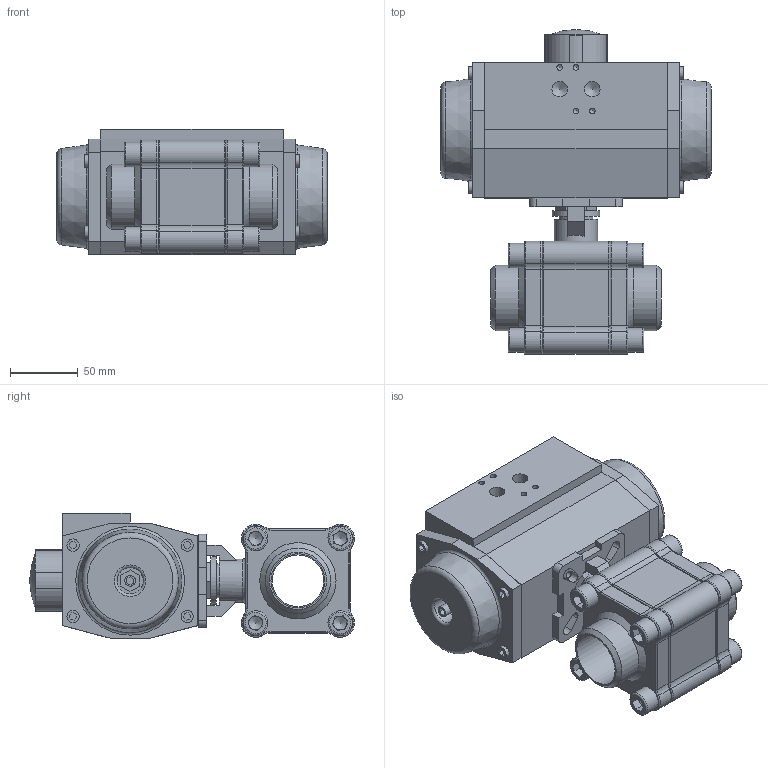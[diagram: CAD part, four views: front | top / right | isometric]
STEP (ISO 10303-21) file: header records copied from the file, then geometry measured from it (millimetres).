
FILE_DESCRIPTION (( 'STEP AP214' ), '1' );
FILE_NAME ('S33D BW DN40 + AP3.STEP', '2025-08-13T08:21:43', ( '' ), ( '' ), 'SwSTEP 2.0', 'SolidWorks 2021', '' );
FILE_SCHEMA (( 'AUTOMOTIVE_DESIGN' ));
Length unit declared in the file: millimetre
Products named in the file (6): S33D BW DN40 + AP3; S33D KK DN40 PN100; S33D DN40 Buttweld; S33D Flens Buttweld DN40; socket head cap screw_din_DIN 912 M12 x 30 --- 30N; AP3_Default<As Machined>
Assembly tree (13 placements, depth 3):
  S33D BW DN40 + AP3
    S33D DN40 Buttweld
      S33D KK DN40 PN100
      S33D Flens Buttweld DN40  x2
      socket head cap screw_din_DIN 912 M12 x 30 --- 30N  x8
    AP3_Default<As Machined>
Bounding box: 199 x 239.07 x 92 mm (x, y, z)
Volume: 1970114.3 mm3; surface area: 224606.2 mm2
Topology: 19 solids, 19 shells, 638 faces, 1495 edges, 935 vertices
Faces by surface type: plane 356, cylinder 146, torus 95, cone 40, sphere 1
Full cylindrical faces by diameter (mm): 4.2 x8, 5 x4, 6.8 x4, 8 x2, 9 x8, 10.5 x4, 11.445 x2, 12 x8, 12.5 x8, 18 x8, 19.3 x2, 25 x1, 28 x1, 32 x1, 35 x2, 38 x1, 38.5 x1, 39.7 x2, 45.8 x1, 48.1 x2
Entity records: 13150 total; most frequent: DIRECTION 2145, CARTESIAN_POINT 2020, ORIENTED_EDGE 1860, EDGE_CURVE 930, AXIS2_PLACEMENT_3D 768, VERTEX_POINT 635, LINE 609, VECTOR 609
